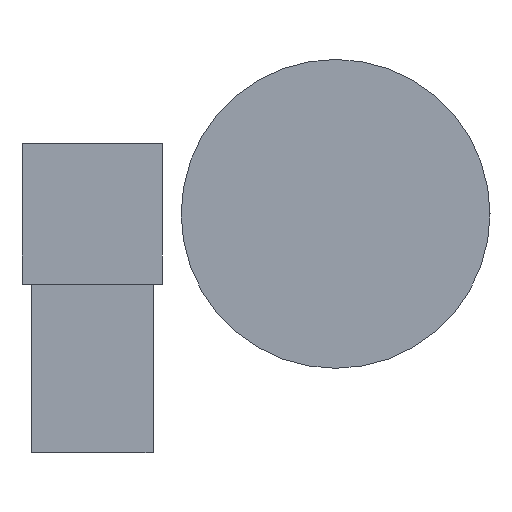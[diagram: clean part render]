
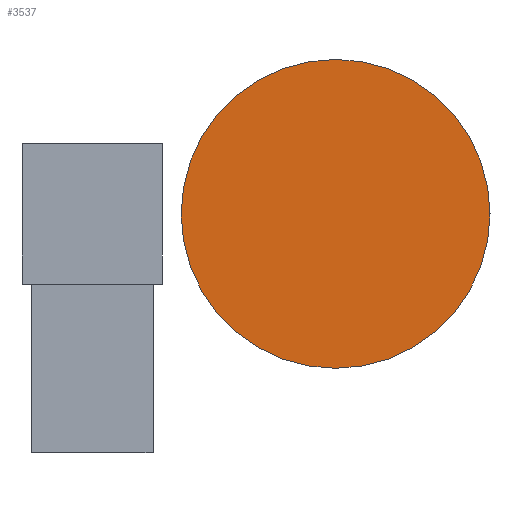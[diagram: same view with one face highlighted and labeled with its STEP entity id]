
A CAD part, left-side view. The second image highlights one B-rep face of the part: STEP entity #3537.
In plain terms, the highlighted planar face has unit normal (-1, 0, 0).
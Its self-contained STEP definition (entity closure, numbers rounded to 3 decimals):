
#3459 = CYLINDRICAL_SURFACE('',#3460,330.);
#3460 = AXIS2_PLACEMENT_3D('',#3461,#3462,#3463);
#3461 = CARTESIAN_POINT('',(-875.,0.,-150.));
#3462 = DIRECTION('',(1.,0.,0.));
#3463 = DIRECTION('',(-0.,0.,1.));
#3484 = VERTEX_POINT('',#3485);
#3485 = CARTESIAN_POINT('',(-875.,0.,180.));
#3506 = EDGE_CURVE('',#3484,#3484,#3507,.T.);
#3507 = SURFACE_CURVE('',#3508,(#3513,#3520),.PCURVE_S1.);
#3508 = CIRCLE('',#3509,330.);
#3509 = AXIS2_PLACEMENT_3D('',#3510,#3511,#3512);
#3510 = CARTESIAN_POINT('',(-875.,0.,-150.));
#3511 = DIRECTION('',(1.,0.,0.));
#3512 = DIRECTION('',(-0.,0.,1.));
#3513 = PCURVE('',#3459,#3514);
#3514 = DEFINITIONAL_REPRESENTATION('',(#3515),#3519);
#3515 = LINE('',#3516,#3517);
#3516 = CARTESIAN_POINT('',(0.,0.));
#3517 = VECTOR('',#3518,1.);
#3518 = DIRECTION('',(1.,0.));
#3519 = ( GEOMETRIC_REPRESENTATION_CONTEXT(2) 
PARAMETRIC_REPRESENTATION_CONTEXT() REPRESENTATION_CONTEXT('2D SPACE',''
  ) );
#3520 = PCURVE('',#3521,#3526);
#3521 = PLANE('',#3522);
#3522 = AXIS2_PLACEMENT_3D('',#3523,#3524,#3525);
#3523 = CARTESIAN_POINT('',(-875.,0.,-150.));
#3524 = DIRECTION('',(1.,0.,0.));
#3525 = DIRECTION('',(-0.,0.,1.));
#3526 = DEFINITIONAL_REPRESENTATION('',(#3527),#3531);
#3527 = CIRCLE('',#3528,330.);
#3528 = AXIS2_PLACEMENT_2D('',#3529,#3530);
#3529 = CARTESIAN_POINT('',(0.,0.));
#3530 = DIRECTION('',(1.,0.));
#3531 = ( GEOMETRIC_REPRESENTATION_CONTEXT(2) 
PARAMETRIC_REPRESENTATION_CONTEXT() REPRESENTATION_CONTEXT('2D SPACE',''
  ) );
#3537 = ADVANCED_FACE('',(#3538),#3521,.F.);
#3538 = FACE_BOUND('',#3539,.T.);
#3539 = EDGE_LOOP('',(#3540));
#3540 = ORIENTED_EDGE('',*,*,#3506,.F.);
